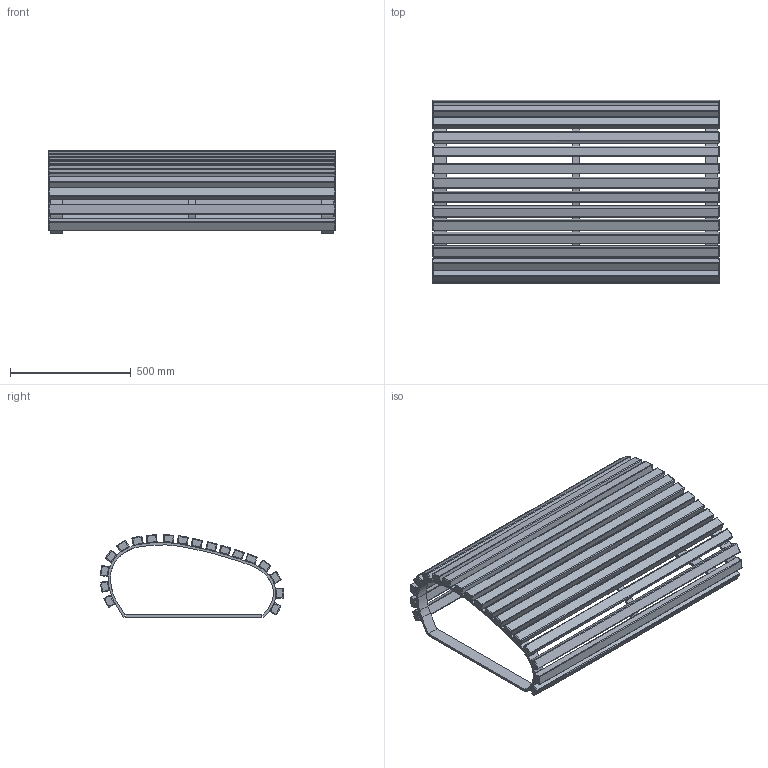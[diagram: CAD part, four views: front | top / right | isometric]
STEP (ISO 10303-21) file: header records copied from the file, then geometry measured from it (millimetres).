
FILE_DESCRIPTION(/* description */ (''),/* implementation_level */ '2;1');
FILE_NAME(/* name */ 'ENV02-A2_UAP_ENVIRON_Bench_3D',/* time_stamp */ '2018-01-23T18:21:15-05:00',/* author */ (''),/* organization */ (''),/* preprocessor_version */ 'ST-DEVELOPER v15',/* originating_system */ '',/* authorisation */ '');
FILE_SCHEMA (('AUTOMOTIVE_DESIGN'));
Length unit declared in the file: millimetre
Products named in the file (1): Document
Bounding box: 1190 x 761.19 x 342.86 mm (x, y, z)
Volume: 30635362.2 mm3; surface area: 3598396 mm2
Topology: 23 solids, 23 shells, 601 faces, 1377 edges, 678 vertices
Faces by surface type: bspline 473, plane 128
Entity records: 14530 total; most frequent: CARTESIAN_POINT 7226, ORIENTED_EDGE 2466, EDGE_CURVE 1233, VERTEX_POINT 678, ADVANCED_FACE 601, FACE_OUTER_BOUND 601, EDGE_LOOP 601, B_SPLINE_CURVE_WITH_KNOTS 464
